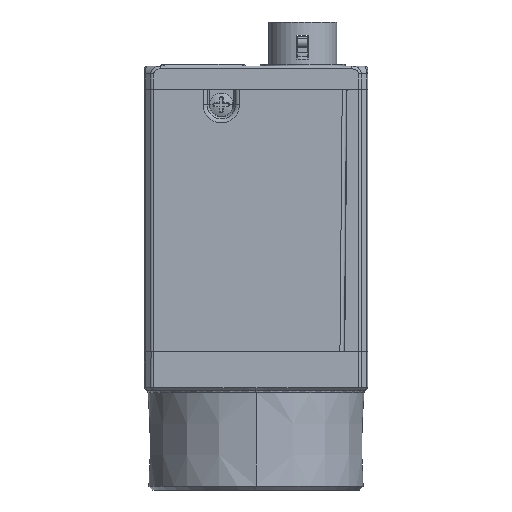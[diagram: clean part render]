
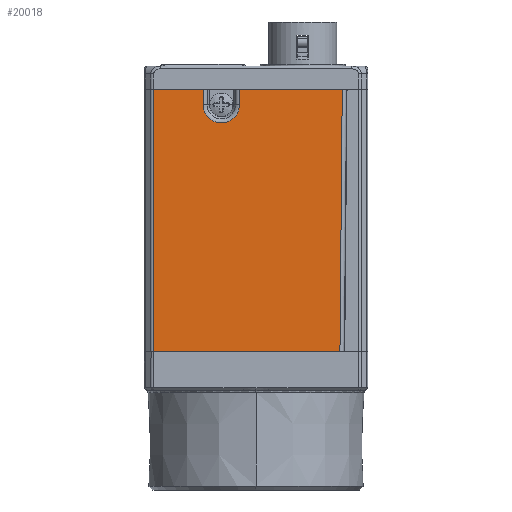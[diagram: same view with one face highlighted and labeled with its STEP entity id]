
A CAD part, left-side view. The second image highlights one B-rep face of the part: STEP entity #20018.
In plain terms, the highlighted planar face has unit normal (-1, 0, 0).
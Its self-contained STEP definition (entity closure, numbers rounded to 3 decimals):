
#1470=DIRECTION('',(0.,0.,-1.));
#1471=VECTOR('',#1470,34.);
#1472=CARTESIAN_POINT('',(-14.5,13.293,39.));
#1473=LINE('',#1472,#1471);
#1478=DIRECTION('',(0.,-0.009,1.));
#1479=VECTOR('',#1478,34.001);
#1480=CARTESIAN_POINT('',(-14.5,-10.88,5.));
#1481=LINE('',#1480,#1479);
#1482=CARTESIAN_POINT('',(-14.5,4.5,37.));
#1483=DIRECTION('',(1.,0.,0.));
#1484=DIRECTION('',(0.,-1.,0.));
#1485=AXIS2_PLACEMENT_3D('',#1482,#1483,#1484);
#1655=DIRECTION('',(0.,1.,0.));
#1656=VECTOR('',#1655,13.318);
#1657=CARTESIAN_POINT('',(-14.5,-11.177,39.));
#1658=LINE('',#1657,#1656);
#1677=DIRECTION('',(0.,0.,-1.));
#1678=VECTOR('',#1677,2.);
#1679=CARTESIAN_POINT('',(-14.5,2.142,39.));
#1680=LINE('',#1679,#1678);
#1700=DIRECTION('',(0.,0.,1.));
#1701=VECTOR('',#1700,2.);
#1702=CARTESIAN_POINT('',(-14.5,6.858,37.));
#1703=LINE('',#1702,#1701);
#1726=DIRECTION('',(0.,1.,0.));
#1727=VECTOR('',#1726,6.435);
#1728=CARTESIAN_POINT('',(-14.5,6.858,39.));
#1729=LINE('',#1728,#1727);
#11231=DIRECTION('',(0.,1.,0.));
#11232=VECTOR('',#11231,24.173);
#11233=CARTESIAN_POINT('',(-14.5,-10.88,5.));
#11234=LINE('',#11233,#11232);
#17391=CARTESIAN_POINT('',(-14.5,13.293,5.));
#17392=VERTEX_POINT('',#17391);
#17393=CARTESIAN_POINT('',(-14.5,13.293,39.));
#17394=VERTEX_POINT('',#17393);
#17395=CARTESIAN_POINT('',(-14.5,-10.88,5.));
#17396=CARTESIAN_POINT('',(-14.5,-11.177,39.));
#17397=VERTEX_POINT('',#17395);
#17398=VERTEX_POINT('',#17396);
#17399=CARTESIAN_POINT('',(-14.5,6.858,39.));
#17400=VERTEX_POINT('',#17399);
#17401=CARTESIAN_POINT('',(-14.5,6.858,37.));
#17402=VERTEX_POINT('',#17401);
#17403=CARTESIAN_POINT('',(-14.5,2.142,37.));
#17404=VERTEX_POINT('',#17403);
#17405=CARTESIAN_POINT('',(-14.5,2.142,39.));
#17406=VERTEX_POINT('',#17405);
#19996=CARTESIAN_POINT('',(-14.5,1.058,22.));
#19997=DIRECTION('',(1.,0.,0.));
#19998=DIRECTION('',(0.,-1.,0.));
#19999=AXIS2_PLACEMENT_3D('',#19996,#19997,#19998);
#20000=PLANE('',#19999);
#20002=ORIENTED_EDGE('',*,*,#20001,.F.);
#20004=ORIENTED_EDGE('',*,*,#20003,.T.);
#20005=ORIENTED_EDGE('',*,*,#19987,.F.);
#20007=ORIENTED_EDGE('',*,*,#20006,.F.);
#20009=ORIENTED_EDGE('',*,*,#20008,.F.);
#20011=ORIENTED_EDGE('',*,*,#20010,.F.);
#20013=ORIENTED_EDGE('',*,*,#20012,.F.);
#20015=ORIENTED_EDGE('',*,*,#20014,.F.);
#20016=EDGE_LOOP('',(#20002,#20004,#20005,#20007,#20009,#20011,#20013,#20015));
#20017=FACE_OUTER_BOUND('',#20016,.F.);
#20018=ADVANCED_FACE('',(#20017),#20000,.F.);
#1486=CIRCLE('',#1485,2.358);
#19987=EDGE_CURVE('',#17394,#17392,#1473,.T.);
#20001=EDGE_CURVE('',#17397,#17398,#1481,.T.);
#20003=EDGE_CURVE('',#17397,#17392,#11234,.T.);
#20006=EDGE_CURVE('',#17400,#17394,#1729,.T.);
#20008=EDGE_CURVE('',#17402,#17400,#1703,.T.);
#20010=EDGE_CURVE('',#17404,#17402,#1486,.T.);
#20012=EDGE_CURVE('',#17406,#17404,#1680,.T.);
#20014=EDGE_CURVE('',#17398,#17406,#1658,.T.);
